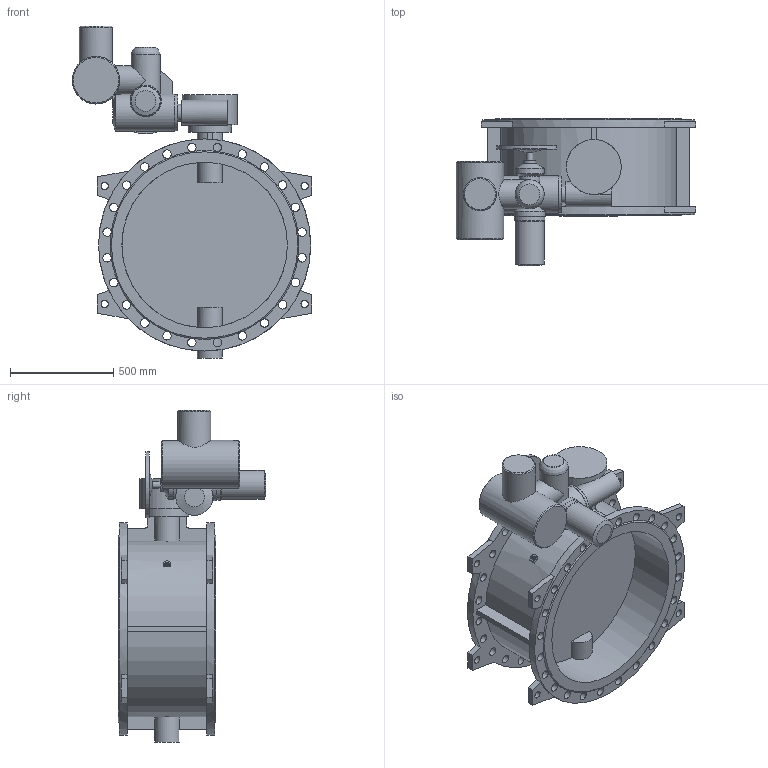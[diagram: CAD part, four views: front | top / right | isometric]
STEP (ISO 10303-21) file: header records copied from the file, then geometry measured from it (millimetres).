
FILE_DESCRIPTION(('STEP AP203'), '1');
FILE_NAME('Çàòâîð 023F.Z DN800 PN16 + ðåäóêòîð + ÌÒ903.À30 ñ ÁÓ', '', ('UNSPECIFIED'), ('UNSPECIFIED'), 'ASCON STEP Converter 1.6', 'ASCON Math Kernel', '');
FILE_SCHEMA(('CONFIG_CONTROL_DESIGN'));
Length unit declared in the file: millimetre
Bounding box: 1158 x 711.5 x 1604 mm (x, y, z)
Volume: 137739107.4 mm3; surface area: 6413369.5 mm2
Topology: 1 solids, 1 shells, 238 faces, 734 edges, 484 vertices
Faces by surface type: cylinder 116, plane 108, cone 13, torus 1
Full cylindrical faces by diameter (mm): 14 x4, 18 x4, 18.5 x4, 23 x4, 32 x1, 35 x8, 41 x48, 60 x1, 80 x1, 100 x1, 120 x2, 140 x4, 147 x1, 151 x1, 160 x1, 175 x1, 180 x1, 210 x1, 230 x1, 265 x1, 800 x2, 1025 x2
Entity records: 14373 total; most frequent: CARTESIAN_POINT 5974, DIRECTION 1356, ORIENTED_EDGE 1250, EDGE_CURVE 625, AXIS2_PLACEMENT_3D 582, VERTEX_POINT 483, EDGE_LOOP 442, CIRCLE 344
